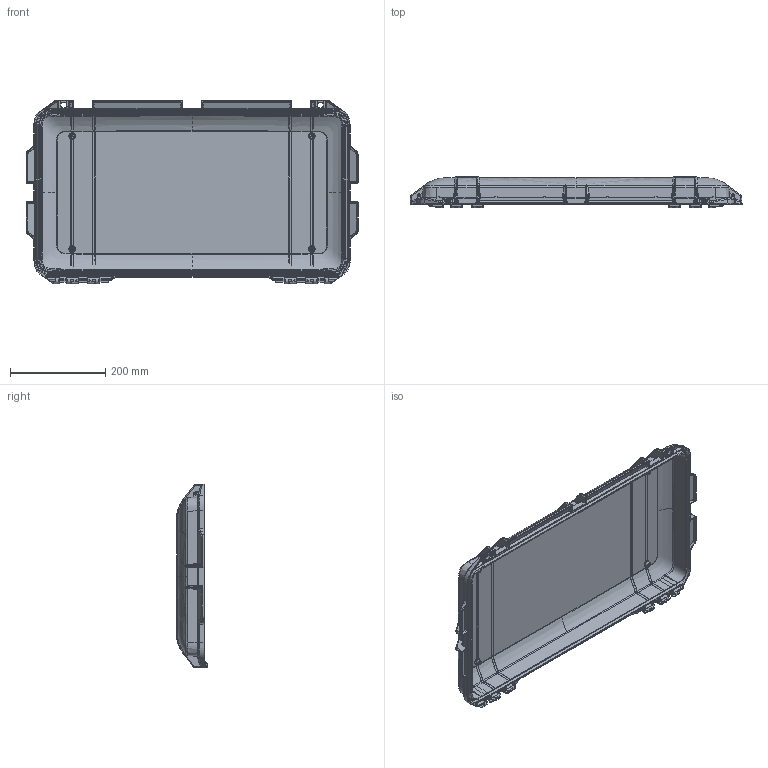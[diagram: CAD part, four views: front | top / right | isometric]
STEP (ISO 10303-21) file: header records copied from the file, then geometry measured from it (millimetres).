
FILE_DESCRIPTION (( 'STEP AP214' ), '1' );
FILE_NAME ('1606 Top Tub.STEP', '2019-11-02T23:52:34', ( '' ), ( '' ), 'SwSTEP 2.0', 'SolidWorks 2016', '' );
FILE_SCHEMA (( 'AUTOMOTIVE_DESIGN' ));
Products named in the file (1): 1606 Top Tub
Bounding box: 696.58 x 64.96 x 384.77 mm (x, y, z)
Volume: 1545290.5 mm3; surface area: 712874.7 mm2
Topology: 1 solids, 5 shells, 2417 faces, 6137 edges, 3680 vertices
Faces by surface type: cylinder 825, bspline 794, plane 694, torus 60, sphere 30, cone 14
Full cylindrical faces by diameter (mm): 3.048 x10, 12.7 x2
Entity records: 122606 total; most frequent: CARTESIAN_POINT 72672, ORIENTED_EDGE 12110, DIRECTION 8283, EDGE_CURVE 6055, VERTEX_POINT 3654, AXIS2_PLACEMENT_3D 2786, VECTOR 2711, LINE 2711
